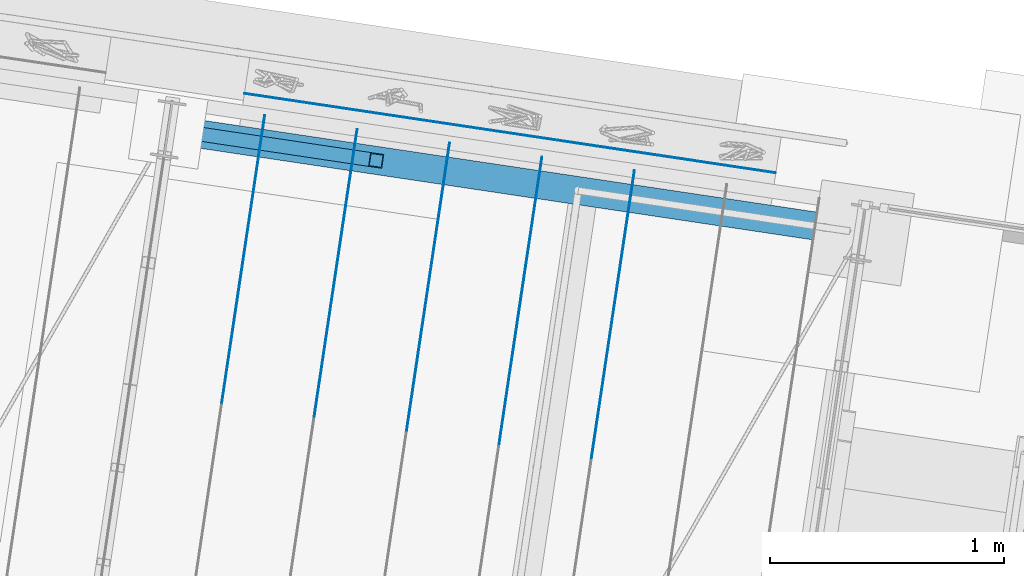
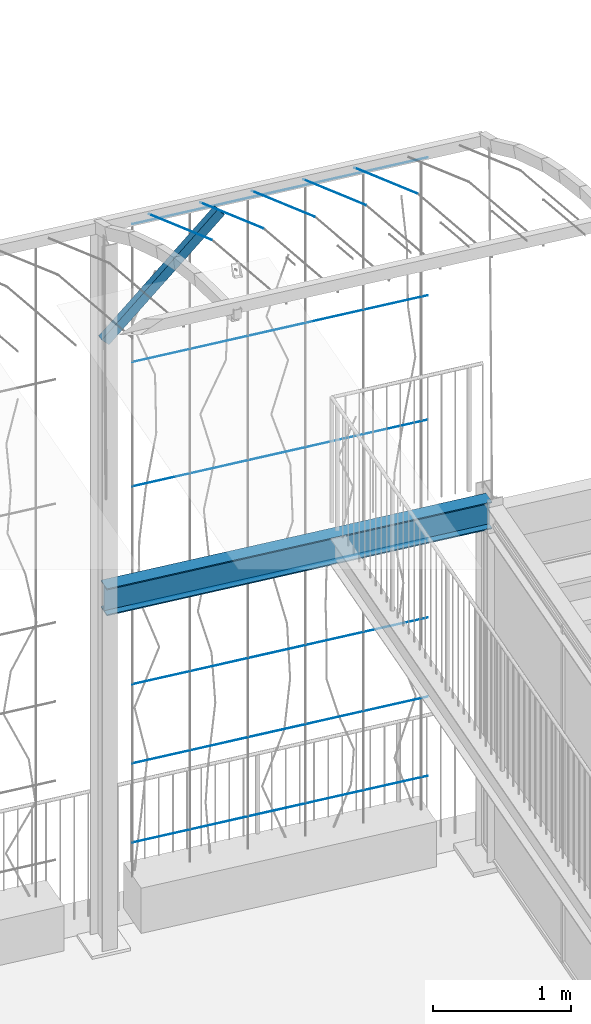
# One storey, part 37 of 142: 13 members, 1 beam, 2 elements without a shape of their own.
"""IFC4 building model written with IfcOpenShell, lengths in metres."""

from ifc_helpers import new_model, si_unit, direction, frame, origin_with_axes, place, context, subcontext, project, spatial, hollow_rectangle, circle, i_section, extrude, material, material_profile, profile_set, profile_usage, type_object, element, aggregate, save


model = new_model("IFC4")

# Units and contexts
model_context = context("Model", 3, precision=1e-05, world=origin_with_axes(), true_north=direction((0.0, 1.0)))
body_context = subcontext(model_context, "Body", "Model", "MODEL_VIEW")
ifc_project = project(units=[si_unit("VOLUMEUNIT", "CUBIC_METRE"), si_unit("LENGTHUNIT", "METRE"), si_unit("AREAUNIT", "SQUARE_METRE")], contexts=[model_context])

# Site, building, storey
site_placement = place(None, origin_with_axes())
site = spatial("IfcSite", under=ifc_project, at=site_placement, Name="Lares · Rua das Mercês · artigo 4771")
building_placement = place(site_placement, frame((12.0, 10.2, 13.9), z_axis=(0.0, 0.0, 1.0), x_axis=(0.989015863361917, -0.147809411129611, 0.0)))
building = spatial("IfcBuilding", under=site, at=building_placement, Name="Casa Sobreposta")
storey_placement = place(building_placement, origin_with_axes())
storey = spatial("IfcBuildingStorey", under=building, at=storey_placement, Name="00 · Habitação e estacionamento", Elevation=13.9)

# Assembly, beam, members
assembly_1_placement = place(storey_placement, origin_with_axes())
assembly_1 = element("IfcElementAssembly", 1, at=assembly_1_placement, inside=storey, Name="Pérgola · prolongamento da estufa 6 m", ObjectType="PERGOLA_GREENHOUSE_EXTENSION", PredefinedType="USERDEFINED")
ifc_material_1 = material(Name="Aço pintado / Stahl lackiert", Category="steel")
ifc_material_profile_1 = material_profile(ifc_material_1, i_section(OverallWidth=0.12, OverallDepth=0.24, WebThickness=0.0062, FlangeThickness=0.0098))
ifc_profile_set_1 = profile_set([ifc_material_profile_1], Name="IPE240")
ifc_profile_usage_1 = profile_usage(ifc_profile_set_1)
beam_type = type_object("IfcBeamType", Name="IPE240 / steel", PredefinedType="NOTDEFINED", material=ifc_profile_set_1)
beam_placement = place(assembly_1_placement, frame((-3.0, 6.28, 3.02), z_axis=(1.0, 0.0, 0.0), x_axis=(0.0, -1.0, 0.0)))
beam = element("IfcBeam", 2, at=beam_placement, type_object=beam_type, material=ifc_profile_usage_1, Name="Varanda · viga de bordo", context=body_context, shape_type="SweptSolid", body=[
    extrude(i_section(OverallWidth=0.12, OverallDepth=0.24, WebThickness=0.0062, FlangeThickness=0.0098), origin_with_axes(), (0.0, 0.0, 1.0), 3.0),
])
ifc_material_profile_2 = material_profile(ifc_material_1, hollow_rectangle(XDim=0.06, YDim=0.08, WallThickness=0.004))
ifc_profile_set_2 = profile_set([ifc_material_profile_2], Name="RHS80x60x4")
ifc_profile_usage_2 = profile_usage(ifc_profile_set_2)
member_type_1 = type_object("IfcMemberType", Name="RHS80x60x4 / steel", PredefinedType="NOTDEFINED", material=ifc_profile_set_2)
member_1_placement = place(assembly_1_placement, frame((-3.0, 6.28, 5.3), z_axis=(0.699294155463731, 0.0, 0.714834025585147), x_axis=(0.0, -1.0, 0.0)))
member_1 = element("IfcMember", 3, at=member_1_placement, type_object=member_type_1, material=ifc_profile_usage_2, Name="Pérgola · escora alta", context=body_context, shape_type="SweptSolid", body=[
    extrude(hollow_rectangle(XDim=0.06, YDim=0.08, WallThickness=0.004), origin_with_axes(), (0.0, 0.0, 1.0), 1.28701204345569),
])
ifc_material_2 = material(Name="Aço galvanizado / Stahl verzinkt", Category="steel")
ifc_material_profile_3 = material_profile(ifc_material_2, circle(Radius=0.002))
ifc_profile_set_3 = profile_set([ifc_material_profile_3], Name="D0.004")
ifc_profile_usage_3 = profile_usage(ifc_profile_set_3)
member_type_2 = type_object("IfcMemberType", Name="D0.004 / galvanized", PredefinedType="NOTDEFINED", material=ifc_profile_set_3)
member_2_placement = place(assembly_1_placement, frame((-2.6, 5.15650506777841, 6.8157371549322), z_axis=(0.0, 0.905864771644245, -0.423567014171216), x_axis=(1.0, 0.0, 0.0)))
member_2 = element("IfcMember", 4, at=member_2_placement, type_object=member_type_2, material=ifc_profile_usage_3, Name="Pérgola · fio para trepadeiras", context=body_context, shape_type="SweptSolid", body=[
    extrude(circle(Radius=0.002), origin_with_axes(), (0.0, 0.0, 1.0), 1.3727158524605),
])
ifc_profile_usage_4 = profile_usage(ifc_profile_set_3)
member_3_placement = place(assembly_1_placement, frame((-2.2, 5.15650506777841, 6.8157371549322), z_axis=(0.0, 0.905864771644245, -0.423567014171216), x_axis=(1.0, 0.0, 0.0)))
member_3 = element("IfcMember", 5, at=member_3_placement, type_object=member_type_2, material=ifc_profile_usage_4, Name="Pérgola · fio para trepadeiras", context=body_context, shape_type="SweptSolid", body=[
    extrude(circle(Radius=0.002), origin_with_axes(), (0.0, 0.0, 1.0), 1.3727158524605),
])
ifc_profile_usage_5 = profile_usage(ifc_profile_set_3)
member_4_placement = place(assembly_1_placement, frame((-1.8, 5.15650506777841, 6.8157371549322), z_axis=(0.0, 0.905864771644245, -0.423567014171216), x_axis=(1.0, 0.0, 0.0)))
member_4 = element("IfcMember", 6, at=member_4_placement, type_object=member_type_2, material=ifc_profile_usage_5, Name="Pérgola · fio para trepadeiras", context=body_context, shape_type="SweptSolid", body=[
    extrude(circle(Radius=0.002), origin_with_axes(), (0.0, 0.0, 1.0), 1.3727158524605),
])
ifc_profile_usage_6 = profile_usage(ifc_profile_set_3)
member_5_placement = place(assembly_1_placement, frame((-1.4, 5.15650506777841, 6.8157371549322), z_axis=(0.0, 0.905864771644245, -0.423567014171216), x_axis=(1.0, 0.0, 0.0)))
member_5 = element("IfcMember", 7, at=member_5_placement, type_object=member_type_2, material=ifc_profile_usage_6, Name="Pérgola · fio para trepadeiras", context=body_context, shape_type="SweptSolid", body=[
    extrude(circle(Radius=0.002), origin_with_axes(), (0.0, 0.0, 1.0), 1.3727158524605),
])
ifc_profile_usage_7 = profile_usage(ifc_profile_set_3)
member_6_placement = place(assembly_1_placement, frame((-0.999999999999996, 5.15650506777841, 6.8157371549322), z_axis=(0.0, 0.905864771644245, -0.423567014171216), x_axis=(1.0, 0.0, 0.0)))
member_6 = element("IfcMember", 8, at=member_6_placement, type_object=member_type_2, material=ifc_profile_usage_7, Name="Pérgola · fio para trepadeiras", context=body_context, shape_type="SweptSolid", body=[
    extrude(circle(Radius=0.002), origin_with_axes(), (0.0, 0.0, 1.0), 1.3727158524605),
])
aggregate(assembly_1, [member_1, member_2, member_3, member_4, member_5, member_6, beam])

# Assembly, members
assembly_2_placement = place(storey_placement, origin_with_axes())
assembly_2 = element("IfcElementAssembly", 9, at=assembly_2_placement, inside=storey, Name="Fachada sul e pátio · estrutura e trepadeiras", ObjectType="LIVING_SHADE_TRELLIS", PredefinedType="USERDEFINED")
ifc_profile_usage_8 = profile_usage(ifc_profile_set_3)
member_7_placement = place(assembly_2_placement, frame((-2.7, 6.48, 0.65), z_axis=(1.0, 0.0, 0.0), x_axis=(0.0, -1.0, 0.0)))
member_7 = element("IfcMember", 10, at=member_7_placement, type_object=member_type_2, material=ifc_profile_usage_8, Name="Trepadeiras · fio horizontal", context=body_context, shape_type="SweptSolid", body=[
    extrude(circle(Radius=0.002), origin_with_axes(), (0.0, 0.0, 1.0), 2.3),
])
ifc_profile_usage_9 = profile_usage(ifc_profile_set_3)
member_8_placement = place(assembly_2_placement, frame((-2.7, 6.48, 1.35), z_axis=(1.0, 0.0, 0.0), x_axis=(0.0, -1.0, 0.0)))
member_8 = element("IfcMember", 11, at=member_8_placement, type_object=member_type_2, material=ifc_profile_usage_9, Name="Trepadeiras · fio horizontal", context=body_context, shape_type="SweptSolid", body=[
    extrude(circle(Radius=0.002), origin_with_axes(), (0.0, 0.0, 1.0), 2.3),
])
ifc_profile_usage_10 = profile_usage(ifc_profile_set_3)
member_9_placement = place(assembly_2_placement, frame((-2.7, 6.48, 2.05), z_axis=(1.0, 0.0, 0.0), x_axis=(0.0, -1.0, 0.0)))
member_9 = element("IfcMember", 12, at=member_9_placement, type_object=member_type_2, material=ifc_profile_usage_10, Name="Trepadeiras · fio horizontal", context=body_context, shape_type="SweptSolid", body=[
    extrude(circle(Radius=0.002), origin_with_axes(), (0.0, 0.0, 1.0), 2.3),
])
ifc_profile_usage_11 = profile_usage(ifc_profile_set_3)
member_10_placement = place(assembly_2_placement, frame((-2.7, 6.48, 2.75), z_axis=(1.0, 0.0, 0.0), x_axis=(0.0, -1.0, 0.0)))
member_10 = element("IfcMember", 13, at=member_10_placement, type_object=member_type_2, material=ifc_profile_usage_11, Name="Trepadeiras · fio horizontal", context=body_context, shape_type="SweptSolid", body=[
    extrude(circle(Radius=0.002), origin_with_axes(), (0.0, 0.0, 1.0), 2.3),
])
ifc_profile_usage_12 = profile_usage(ifc_profile_set_3)
member_11_placement = place(assembly_2_placement, frame((-2.7, 6.48, 3.8), z_axis=(1.0, 0.0, 0.0), x_axis=(0.0, -1.0, 0.0)))
member_11 = element("IfcMember", 14, at=member_11_placement, type_object=member_type_2, material=ifc_profile_usage_12, Name="Trepadeiras · fio horizontal", context=body_context, shape_type="SweptSolid", body=[
    extrude(circle(Radius=0.002), origin_with_axes(), (0.0, 0.0, 1.0), 2.3),
])
ifc_profile_usage_13 = profile_usage(ifc_profile_set_3)
member_12_placement = place(assembly_2_placement, frame((-2.7, 6.48, 4.9), z_axis=(1.0, 0.0, 0.0), x_axis=(0.0, -1.0, 0.0)))
member_12 = element("IfcMember", 15, at=member_12_placement, type_object=member_type_2, material=ifc_profile_usage_13, Name="Trepadeiras · fio horizontal", context=body_context, shape_type="SweptSolid", body=[
    extrude(circle(Radius=0.002), origin_with_axes(), (0.0, 0.0, 1.0), 2.3),
])
ifc_profile_usage_14 = profile_usage(ifc_profile_set_3)
member_13_placement = place(assembly_2_placement, frame((-2.7, 6.48, 6.12), z_axis=(1.0, 0.0, 0.0), x_axis=(0.0, -1.0, 0.0)))
member_13 = element("IfcMember", 16, at=member_13_placement, type_object=member_type_2, material=ifc_profile_usage_14, Name="Trepadeiras · fio horizontal", context=body_context, shape_type="SweptSolid", body=[
    extrude(circle(Radius=0.002), origin_with_axes(), (0.0, 0.0, 1.0), 2.3),
])
aggregate(assembly_2, [member_7, member_8, member_9, member_10, member_11, member_12, member_13])

save(model, "model.ifc")
